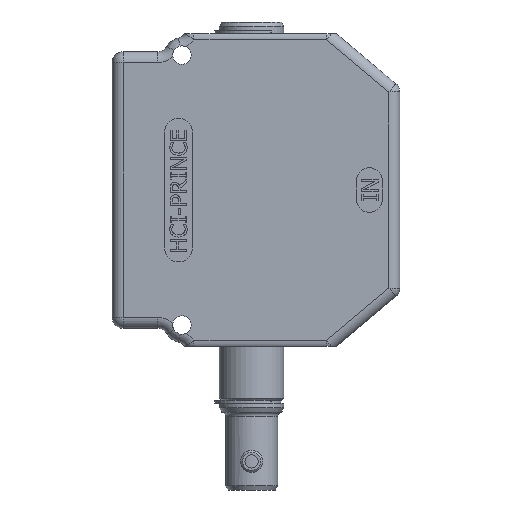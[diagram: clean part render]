
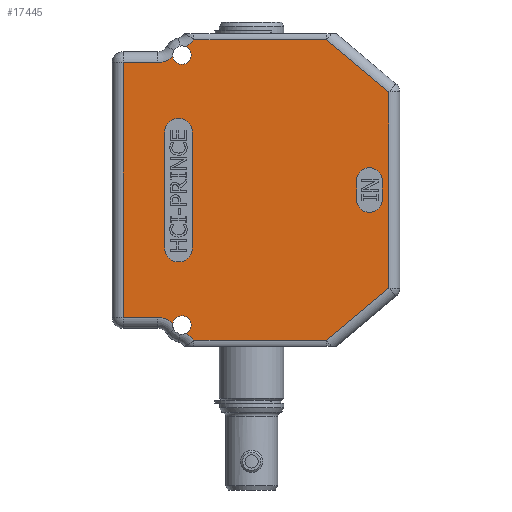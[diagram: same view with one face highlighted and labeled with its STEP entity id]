
A CAD part, left-side view. The second image highlights one B-rep face of the part: STEP entity #17445.
In plain terms, the highlighted planar face has unit normal (-1, 0, 0).
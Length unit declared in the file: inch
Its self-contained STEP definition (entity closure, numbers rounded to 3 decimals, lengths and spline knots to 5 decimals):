
#1753=CARTESIAN_POINT('',(-0.875,0.85,-1.4515));
#1754=VERTEX_POINT('',#1753);
#1761=CARTESIAN_POINT('',(-0.875,1.25,-1.4515));
#1762=VERTEX_POINT('',#1761);
#1763=CARTESIAN_POINT('',(-0.875,1.05,-1.4515));
#1764=DIRECTION('',(1.0,0.0,0.0));
#1765=DIRECTION('',(0.0,1.0,0.0));
#1766=AXIS2_PLACEMENT_3D('',#1763,#1764,#1765);
#1767=CIRCLE('',#1766,0.2);
#1768=EDGE_CURVE('',#1762,#1754,#1767,.T.);
#1792=CARTESIAN_POINT('',(-0.875,0.85,-3.1135));
#1793=VERTEX_POINT('',#1792);
#1800=CARTESIAN_POINT('',(-0.875,0.85,-1.4515));
#1801=DIRECTION('',(0.0,0.0,-1.0));
#1802=VECTOR('',#1801,1.662);
#1803=LINE('',#1800,#1802);
#1804=EDGE_CURVE('',#1754,#1793,#1803,.T.);
#1824=CARTESIAN_POINT('',(-0.875,1.25,-3.1135));
#1825=VERTEX_POINT('',#1824);
#1832=CARTESIAN_POINT('',(-0.875,1.05,-3.1135));
#1833=DIRECTION('',(1.0,0.0,0.0));
#1834=DIRECTION('',(0.0,-1.0,0.0));
#1835=AXIS2_PLACEMENT_3D('',#1832,#1833,#1834);
#1836=CIRCLE('',#1835,0.2);
#1837=EDGE_CURVE('',#1793,#1825,#1836,.T.);
#1855=CARTESIAN_POINT('',(-0.875,1.25,-3.1135));
#1856=DIRECTION('',(0.0,0.0,1.0));
#1857=VECTOR('',#1856,1.662);
#1858=LINE('',#1855,#1857);
#1859=EDGE_CURVE('',#1825,#1762,#1858,.T.);
#2093=CARTESIAN_POINT('',(-0.875,-1.505,-2.4175));
#2094=VERTEX_POINT('',#2093);
#2101=CARTESIAN_POINT('',(-0.875,-1.875,-2.4175));
#2102=VERTEX_POINT('',#2101);
#2103=CARTESIAN_POINT('',(-0.875,-1.69,-2.4175));
#2104=DIRECTION('',(1.0,0.0,0.0));
#2105=DIRECTION('',(0.0,-1.0,0.0));
#2106=AXIS2_PLACEMENT_3D('',#2103,#2104,#2105);
#2107=CIRCLE('',#2106,0.185);
#2108=EDGE_CURVE('',#2102,#2094,#2107,.T.);
#2125=CARTESIAN_POINT('',(-0.875,-1.505,-2.1475));
#2126=VERTEX_POINT('',#2125);
#2133=CARTESIAN_POINT('',(-0.875,-1.505,-2.4175));
#2134=DIRECTION('',(0.0,0.0,1.0));
#2135=VECTOR('',#2134,0.27);
#2136=LINE('',#2133,#2135);
#2137=EDGE_CURVE('',#2094,#2126,#2136,.T.);
#2149=CARTESIAN_POINT('',(-0.875,-1.875,-2.1475));
#2150=VERTEX_POINT('',#2149);
#2157=CARTESIAN_POINT('',(-0.875,-1.69,-2.1475));
#2158=DIRECTION('',(1.0,0.0,0.0));
#2159=DIRECTION('',(0.0,1.0,0.0));
#2160=AXIS2_PLACEMENT_3D('',#2157,#2158,#2159);
#2161=CIRCLE('',#2160,0.185);
#2162=EDGE_CURVE('',#2126,#2150,#2161,.T.);
#2175=CARTESIAN_POINT('',(-0.875,-1.875,-2.1475));
#2176=DIRECTION('',(0.0,0.0,-1.0));
#2177=VECTOR('',#2176,0.27);
#2178=LINE('',#2175,#2177);
#2179=EDGE_CURVE('',#2150,#2102,#2178,.T.);
#15712=CARTESIAN_POINT('',(-0.875,1.844,-0.45413));
#15713=VERTEX_POINT('',#15712);
#15739=CARTESIAN_POINT('',(-0.875,0.94252,-0.22562));
#15740=VERTEX_POINT('',#15739);
#15752=CARTESIAN_POINT('',(-0.875,0.8286,-0.126));
#15753=VERTEX_POINT('',#15752);
#15754=CARTESIAN_POINT('',(-0.875,1.08482,0.05204));
#15755=DIRECTION('',(-1.0,0.0,0.0));
#15756=DIRECTION('',(0.0,-0.554,-0.833));
#15757=AXIS2_PLACEMENT_3D('',#15754,#15755,#15756);
#15758=CIRCLE('',#15757,0.312);
#15759=EDGE_CURVE('',#15740,#15753,#15758,.T.);
#15786=CARTESIAN_POINT('',(-0.875,1.35168,-0.45413));
#15787=VERTEX_POINT('',#15786);
#15788=CARTESIAN_POINT('',(-0.875,1.844,-0.45413));
#15789=DIRECTION('',(0.0,-1.0,0.0));
#15790=VECTOR('',#15789,0.49232);
#15791=LINE('',#15788,#15790);
#15792=EDGE_CURVE('',#15713,#15787,#15791,.T.);
#15810=CARTESIAN_POINT('',(-0.875,1.844,-4.11088));
#15811=VERTEX_POINT('',#15810);
#15836=CARTESIAN_POINT('',(-0.875,1.844,-4.11088));
#15837=DIRECTION('',(0.0,0.0,1.0));
#15838=VECTOR('',#15837,3.65675);
#15839=LINE('',#15836,#15838);
#15840=EDGE_CURVE('',#15811,#15713,#15839,.T.);
#15854=CARTESIAN_POINT('',(-0.875,-1.969,-0.87481));
#15855=VERTEX_POINT('',#15854);
#15889=CARTESIAN_POINT('',(-0.875,-1.969,-3.69019));
#15890=VERTEX_POINT('',#15889);
#15924=CARTESIAN_POINT('',(-0.875,1.35168,-4.11088));
#15925=VERTEX_POINT('',#15924);
#15933=CARTESIAN_POINT('',(-0.875,1.35168,-4.11088));
#15934=DIRECTION('',(0.0,1.0,0.0));
#15935=VECTOR('',#15934,0.49232);
#15936=LINE('',#15933,#15935);
#15937=EDGE_CURVE('',#15925,#15811,#15936,.T.);
#16000=CARTESIAN_POINT('',(-0.875,-1.969,-0.87481));
#16001=DIRECTION('',(0.0,0.0,-1.0));
#16002=VECTOR('',#16001,2.81538);
#16003=LINE('',#16000,#16002);
#16004=EDGE_CURVE('',#15855,#15890,#16003,.T.);
#16777=CARTESIAN_POINT('',(-0.875,-1.0766,-4.439));
#16778=VERTEX_POINT('',#16777);
#16779=CARTESIAN_POINT('',(-0.875,-1.969,-3.69019));
#16780=DIRECTION('',(0.0,0.766,-0.643));
#16781=VECTOR('',#16780,1.16495);
#16782=LINE('',#16779,#16781);
#16783=EDGE_CURVE('',#15890,#16778,#16782,.T.);
#16834=CARTESIAN_POINT('',(-0.875,0.8286,-4.439));
#16835=VERTEX_POINT('',#16834);
#16836=CARTESIAN_POINT('',(-0.875,-1.0766,-4.439));
#16837=DIRECTION('',(0.0,1.0,0.0));
#16838=VECTOR('',#16837,1.9052);
#16839=LINE('',#16836,#16838);
#16840=EDGE_CURVE('',#16778,#16835,#16839,.T.);
#16882=CARTESIAN_POINT('',(-0.875,0.94252,-4.33938));
#16883=VERTEX_POINT('',#16882);
#16905=CARTESIAN_POINT('',(-0.875,1.08482,-4.61704));
#16906=DIRECTION('',(-1.0,0.0,0.0));
#16907=DIRECTION('',(0.0,-0.554,0.833));
#16908=AXIS2_PLACEMENT_3D('',#16905,#16906,#16907);
#16909=CIRCLE('',#16908,0.312);
#16910=EDGE_CURVE('',#16835,#16883,#16909,.T.);
#16939=CARTESIAN_POINT('',(-0.875,-1.0766,-0.126));
#16940=VERTEX_POINT('',#16939);
#16941=CARTESIAN_POINT('',(-0.875,0.8286,-0.126));
#16942=DIRECTION('',(0.0,-1.0,0.0));
#16943=VECTOR('',#16942,1.9052);
#16944=LINE('',#16941,#16943);
#16945=EDGE_CURVE('',#15753,#16940,#16944,.T.);
#16981=CARTESIAN_POINT('',(-0.875,-1.0766,-0.126));
#16982=DIRECTION('',(0.0,-0.766,-0.643));
#16983=VECTOR('',#16982,1.16495);
#16984=LINE('',#16981,#16983);
#16985=EDGE_CURVE('',#16940,#15855,#16984,.T.);
#17366=CARTESIAN_POINT('',(-0.875,1.13128,-0.36296));
#17367=VERTEX_POINT('',#17366);
#17382=CARTESIAN_POINT('',(-0.875,1.35168,-0.14213));
#17383=DIRECTION('',(-1.0,0.0,0.0));
#17384=DIRECTION('',(0.0,-0.5,-0.866));
#17385=AXIS2_PLACEMENT_3D('',#17382,#17383,#17384);
#17386=CIRCLE('',#17385,0.312);
#17387=EDGE_CURVE('',#15787,#17367,#17386,.T.);
#17392=CARTESIAN_POINT('',(-0.875,0.01154,-2.2825));
#17393=DIRECTION('',(1.0,0.0,0.0));
#17394=DIRECTION('',(0.0,0.0,-1.0));
#17395=AXIS2_PLACEMENT_3D('',#17392,#17393,#17394);
#17396=PLANE('',#17395);
#17397=CARTESIAN_POINT('',(-0.875,1.13128,-4.20204));
#17398=VERTEX_POINT('',#17397);
#17399=CARTESIAN_POINT('',(-0.875,1.,-4.22));
#17400=DIRECTION('',(1.0,0.0,0.0));
#17401=DIRECTION('',(0.0,-1.0,0.0));
#17402=AXIS2_PLACEMENT_3D('',#17399,#17400,#17401);
#17403=CIRCLE('',#17402,0.1325);
#17404=EDGE_CURVE('',#17398,#16883,#17403,.T.);
#17405=ORIENTED_EDGE('',*,*,#17404,.T.);
#17406=ORIENTED_EDGE('',*,*,#16910,.F.);
#17407=ORIENTED_EDGE('',*,*,#16840,.F.);
#17408=ORIENTED_EDGE('',*,*,#16783,.F.);
#17409=ORIENTED_EDGE('',*,*,#16004,.F.);
#17410=ORIENTED_EDGE('',*,*,#16985,.F.);
#17411=ORIENTED_EDGE('',*,*,#16945,.F.);
#17412=ORIENTED_EDGE('',*,*,#15759,.F.);
#17413=CARTESIAN_POINT('',(-0.875,1.,-0.345));
#17414=DIRECTION('',(1.0,0.0,0.0));
#17415=DIRECTION('',(0.0,-1.0,0.0));
#17416=AXIS2_PLACEMENT_3D('',#17413,#17414,#17415);
#17417=CIRCLE('',#17416,0.1325);
#17418=EDGE_CURVE('',#15740,#17367,#17417,.T.);
#17419=ORIENTED_EDGE('',*,*,#17418,.T.);
#17420=ORIENTED_EDGE('',*,*,#17387,.F.);
#17421=ORIENTED_EDGE('',*,*,#15792,.F.);
#17422=ORIENTED_EDGE('',*,*,#15840,.F.);
#17423=ORIENTED_EDGE('',*,*,#15937,.F.);
#17424=CARTESIAN_POINT('',(-0.875,1.35168,-4.42288));
#17425=DIRECTION('',(-1.0,0.0,0.0));
#17426=DIRECTION('',(0.0,-0.5,0.866));
#17427=AXIS2_PLACEMENT_3D('',#17424,#17425,#17426);
#17428=CIRCLE('',#17427,0.312);
#17429=EDGE_CURVE('',#17398,#15925,#17428,.T.);
#17430=ORIENTED_EDGE('',*,*,#17429,.F.);
#17431=EDGE_LOOP('',(#17405,#17406,#17407,#17408,#17409,#17410,#17411,#17412,#17419,#17420,#17421,#17422,#17423,#17430));
#17432=FACE_OUTER_BOUND('',#17431,.T.);
#17433=ORIENTED_EDGE('',*,*,#2179,.T.);
#17434=ORIENTED_EDGE('',*,*,#2108,.T.);
#17435=ORIENTED_EDGE('',*,*,#2137,.T.);
#17436=ORIENTED_EDGE('',*,*,#2162,.T.);
#17437=EDGE_LOOP('',(#17433,#17434,#17435,#17436));
#17438=FACE_BOUND('',#17437,.T.);
#17439=ORIENTED_EDGE('',*,*,#1859,.T.);
#17440=ORIENTED_EDGE('',*,*,#1768,.T.);
#17441=ORIENTED_EDGE('',*,*,#1804,.T.);
#17442=ORIENTED_EDGE('',*,*,#1837,.T.);
#17443=EDGE_LOOP('',(#17439,#17440,#17441,#17442));
#17444=FACE_BOUND('',#17443,.T.);
#17445=ADVANCED_FACE('',(#17432,#17438,#17444),#17396,.F.);
